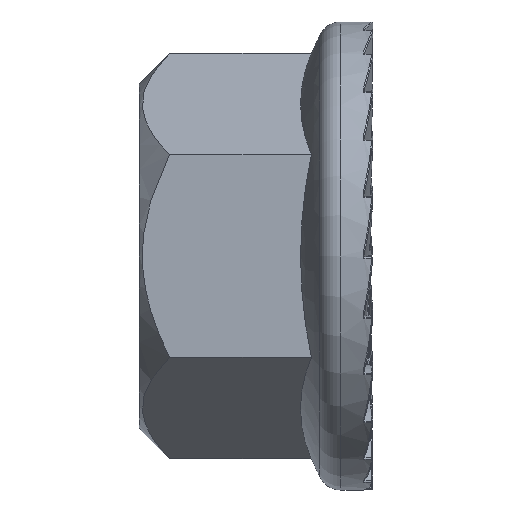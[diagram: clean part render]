
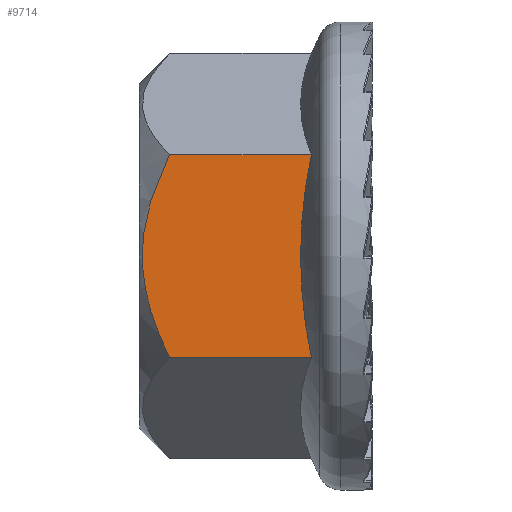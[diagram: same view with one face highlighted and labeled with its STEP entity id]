
A CAD part, left-side view. The second image highlights one B-rep face of the part: STEP entity #9714.
In plain terms, the highlighted planar face has unit normal (-1, 0, 0).
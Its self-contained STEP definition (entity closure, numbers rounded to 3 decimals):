
#196 = CARTESIAN_POINT ( 'NONE',  ( -7.5, 9.6, 4.33 ) ) ;
#344 = DIRECTION ( 'NONE',  ( 1., 0., 0. ) ) ;
#414 = EDGE_LOOP ( 'NONE', ( #589, #10434, #2392, #6015 ) ) ;
#589 = ORIENTED_EDGE ( 'NONE', *, *, #1130, .F. ) ;
#601 = CARTESIAN_POINT ( 'NONE',  ( -7.5, 2.545, -2.908 ) ) ;
#714 = VERTEX_POINT ( 'NONE', #8507 ) ;
#949 = CARTESIAN_POINT ( 'NONE',  ( -7.5, 2.661, 1.457 ) ) ;
#1012 = CARTESIAN_POINT ( 'NONE',  ( -7.5, 8.3, -4.33 ) ) ;
#1130 = EDGE_CURVE ( 'NONE', #714, #9694, #9590, .T. ) ;
#1252 = EDGE_CURVE ( 'NONE', #714, #1354, #4762, .T. ) ;
#1277 = CARTESIAN_POINT ( 'NONE',  ( -7.5, 9.6, -4.33 ) ) ;
#1354 = VERTEX_POINT ( 'NONE', #1012 ) ;
#1551 = DIRECTION ( 'NONE',  ( 0., -1., 0. ) ) ;
#1896 = CARTESIAN_POINT ( 'NONE',  ( -7.5, 9.6, -4.33 ) ) ;
#2392 = ORIENTED_EDGE ( 'NONE', *, *, #8446, .T. ) ;
#2685 = CARTESIAN_POINT ( 'NONE',  ( -7.5, 8.624, 3.653 ) ) ;
#2778 = LINE ( 'NONE', #1896, #12202 ) ;
#2803 = CARTESIAN_POINT ( 'NONE',  ( -7.5, 9.361, -1.317 ) ) ;
#3361 = CARTESIAN_POINT ( 'NONE',  ( -7.5, 2.699, -1.468 ) ) ;
#3465 = FACE_OUTER_BOUND ( 'NONE', #414, .T. ) ;
#4335 = CARTESIAN_POINT ( 'NONE',  ( -7.5, 2.237, 4.33 ) ) ;
#4503 = CARTESIAN_POINT ( 'NONE',  ( -7.5, 9.033, 2.592 ) ) ;
#4688 = CARTESIAN_POINT ( 'NONE',  ( -7.5, 8.3, -4.33 ) ) ;
#4762 = B_SPLINE_CURVE_WITH_KNOTS ( 'NONE', 3,
 ( #9390, #5436, #2685, #6434, #4503, #7557, #12072, #6561, #8224, #5503, #2803, #8346, #12131, #9146, #4688 ),
 .UNSPECIFIED., .F., .F.,
 ( 4, 2, 2, 2, 2, 1, 2, 4 ),
 ( 0.011, 0.012, 0.013, 0.015, 0.016, 0.017, 0.018, 0.02 ),
 .UNSPECIFIED. ) ;
#5352 = CARTESIAN_POINT ( 'NONE',  ( -7.5, 2.506, 2.906 ) ) ;
#5436 = CARTESIAN_POINT ( 'NONE',  ( -7.5, 8.468, 3.995 ) ) ;
#5503 = CARTESIAN_POINT ( 'NONE',  ( -7.5, 9.425, -0.754 ) ) ;
#5927 = B_SPLINE_CURVE_WITH_KNOTS ( 'NONE', 3,
 ( #8268, #6650, #5352, #949, #9128, #3361, #601, #7700 ),
 .UNSPECIFIED., .F., .F.,
 ( 4, 2, 2, 4 ),
 ( 0.01, 0.012, 0.014, 0.019 ),
 .UNSPECIFIED. ) ;
#6015 = ORIENTED_EDGE ( 'NONE', *, *, #10349, .F. ) ;
#6040 = VECTOR ( 'NONE', #1551, 1000. ) ;
#6205 = DIRECTION ( 'NONE',  ( 0., 0., -1. ) ) ;
#6434 = CARTESIAN_POINT ( 'NONE',  ( -7.5, 8.906, 2.953 ) ) ;
#6561 = CARTESIAN_POINT ( 'NONE',  ( -7.5, 9.46, -0.184 ) ) ;
#6650 = CARTESIAN_POINT ( 'NONE',  ( -7.5, 2.39, 3.622 ) ) ;
#7206 = PLANE ( 'NONE',  #12012 ) ;
#7484 = CARTESIAN_POINT ( 'NONE',  ( -7.5, 2.237, -4.33 ) ) ;
#7557 = CARTESIAN_POINT ( 'NONE',  ( -7.5, 9.342, 1.505 ) ) ;
#7700 = CARTESIAN_POINT ( 'NONE',  ( -7.5, 2.237, -4.33 ) ) ;
#8224 = CARTESIAN_POINT ( 'NONE',  ( -7.5, 9.453, -0.376 ) ) ;
#8268 = CARTESIAN_POINT ( 'NONE',  ( -7.5, 2.237, 4.33 ) ) ;
#8346 = CARTESIAN_POINT ( 'NONE',  ( -7.5, 9.239, -1.866 ) ) ;
#8446 = EDGE_CURVE ( 'NONE', #1354, #12160, #2778, .T. ) ;
#8507 = CARTESIAN_POINT ( 'NONE',  ( -7.5, 8.3, 4.33 ) ) ;
#9128 = CARTESIAN_POINT ( 'NONE',  ( -7.5, 2.7, 0.721 ) ) ;
#9146 = CARTESIAN_POINT ( 'NONE',  ( -7.5, 8.636, -3.658 ) ) ;
#9390 = CARTESIAN_POINT ( 'NONE',  ( -7.5, 8.3, 4.33 ) ) ;
#9590 = LINE ( 'NONE', #196, #6040 ) ;
#9694 = VERTEX_POINT ( 'NONE', #4335 ) ;
#9714 = ADVANCED_FACE ( 'NONE', ( #3465 ), #7206, .F. ) ;
#10349 = EDGE_CURVE ( 'NONE', #9694, #12160, #5927, .T. ) ;
#10434 = ORIENTED_EDGE ( 'NONE', *, *, #1252, .T. ) ;
#11309 = DIRECTION ( 'NONE',  ( 0., -1., 0. ) ) ;
#12012 = AXIS2_PLACEMENT_3D ( 'NONE', #1277, #344, #6205 ) ;
#12072 = CARTESIAN_POINT ( 'NONE',  ( -7.5, 9.46, 0.765 ) ) ;
#12131 = CARTESIAN_POINT ( 'NONE',  ( -7.5, 8.931, -2.95 ) ) ;
#12160 = VERTEX_POINT ( 'NONE', #7484 ) ;
#12202 = VECTOR ( 'NONE', #11309, 1000. ) ;
